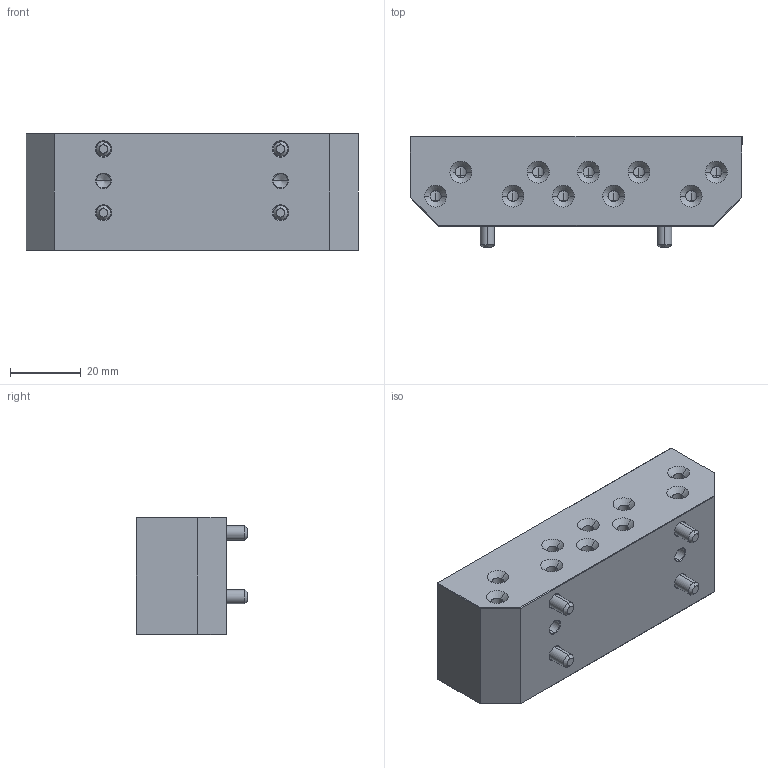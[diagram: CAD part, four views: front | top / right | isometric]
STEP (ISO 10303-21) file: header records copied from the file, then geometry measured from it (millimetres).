
FILE_DESCRIPTION (( 'STEP AP203' ), '1' );
FILE_NAME ('1QCAM-10M5G.STEP', '2024-03-14T08:19:59', ( '微软用户' ), ( '微软中国' ), 'SwSTEP 2.0', 'SolidWorks 2018', '' );
FILE_SCHEMA (( 'CONFIG_CONTROL_DESIGN' ));
Length unit declared in the file: millimetre
Products named in the file (1): 1QCAM-10M5G
Bounding box: 93.7 x 31.5 x 33.27 mm (x, y, z)
Volume: 72380.8 mm3; surface area: 19438.2 mm2
Topology: 1 solids, 1 shells, 298 faces, 702 edges, 404 vertices
Faces by surface type: cone 100, cylinder 96, plane 94, bspline 8
Entity records: 8827 total; most frequent: CARTESIAN_POINT 2025, DIRECTION 1444, ORIENTED_EDGE 1356, EDGE_CURVE 678, AXIS2_PLACEMENT_3D 543, VERTEX_POINT 404, LINE 358, VECTOR 358
